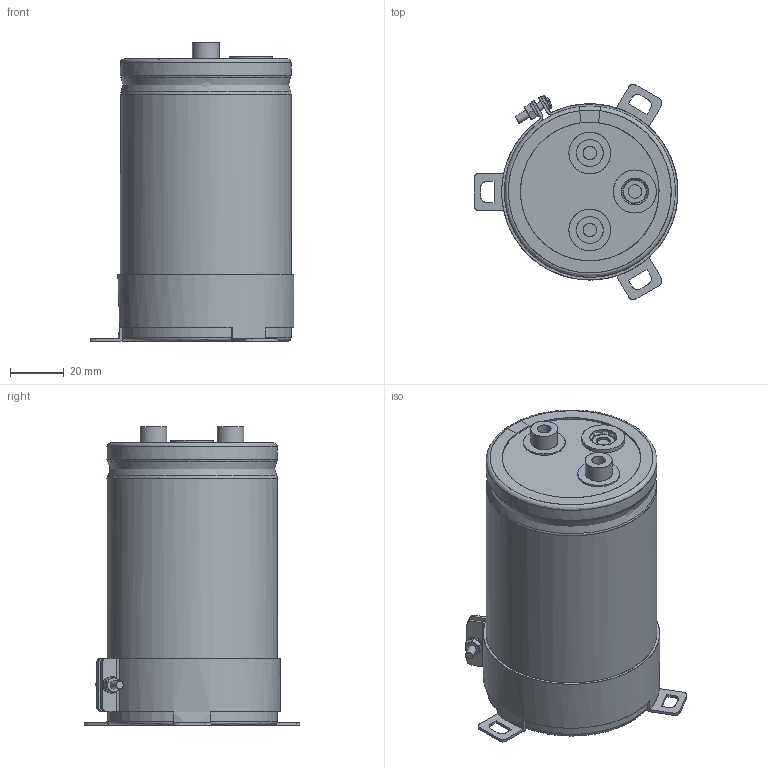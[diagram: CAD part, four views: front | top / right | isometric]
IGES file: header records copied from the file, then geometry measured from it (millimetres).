
Start section: JAMA-IS VERSION  1.0
Bounding box: 75.75 x 80.01 x 111 mm (x, y, z)
Surface area: 83962.5 mm2 (no closed solid volume)
Topology: 0 solids, 0 shells, 259 faces, 4436 edges, 4409 vertices
Faces by surface type: bspline 259
